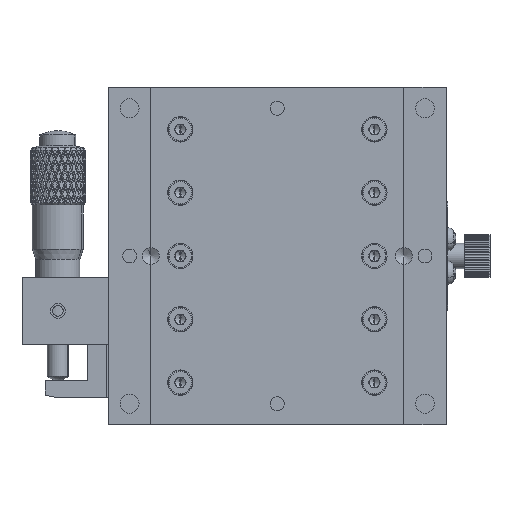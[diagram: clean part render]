
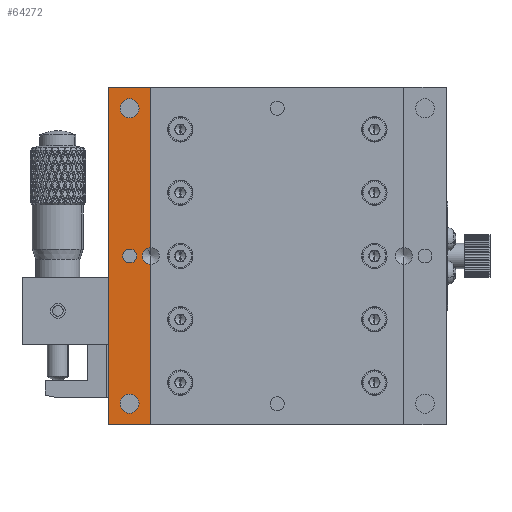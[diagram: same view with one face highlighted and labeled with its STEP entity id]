
A CAD part, front view. The second image highlights one B-rep face of the part: STEP entity #64272.
In plain terms, the highlighted planar face has unit normal (0, -1, 0).
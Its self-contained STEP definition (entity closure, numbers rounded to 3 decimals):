
#957 = EDGE_CURVE ( 'NONE', #43002, #9771, #27841, .T. ) ;
#1872 = VERTEX_POINT ( 'NONE', #61008 ) ;
#2016 = EDGE_CURVE ( 'NONE', #2594, #54217, #45176, .T. ) ;
#2594 = VERTEX_POINT ( 'NONE', #7152 ) ;
#3157 = ORIENTED_EDGE ( 'NONE', *, *, #24356, .F. ) ;
#3160 = AXIS2_PLACEMENT_3D ( 'NONE', #61422, #28050, #67045 ) ;
#3194 = ORIENTED_EDGE ( 'NONE', *, *, #19264, .T. ) ;
#4363 = CARTESIAN_POINT ( 'NONE',  ( -35., 0., 0. ) ) ;
#5461 = DIRECTION ( 'NONE',  ( 0., 0., -1. ) ) ;
#5603 = AXIS2_PLACEMENT_3D ( 'NONE', #72143, #38833, #5461 ) ;
#6060 = CARTESIAN_POINT ( 'NONE',  ( -35., 0., 0. ) ) ;
#6754 = CARTESIAN_POINT ( 'NONE',  ( -40., 0., -40. ) ) ;
#7152 = CARTESIAN_POINT ( 'NONE',  ( -35., 0., -1.65 ) ) ;
#9489 = CARTESIAN_POINT ( 'NONE',  ( -30., 0., 40. ) ) ;
#9545 = CARTESIAN_POINT ( 'NONE',  ( -30., 0., 40. ) ) ;
#9665 = FACE_OUTER_BOUND ( 'NONE', #48557, .T. ) ;
#9771 = VERTEX_POINT ( 'NONE', #30379 ) ;
#9924 = DIRECTION ( 'NONE',  ( 0., 0., 1. ) ) ;
#10125 = LINE ( 'NONE', #9489, #23227 ) ;
#11433 = FACE_BOUND ( 'NONE', #44137, .T. ) ;
#11612 = DIRECTION ( 'NONE',  ( 0., 0., 1. ) ) ;
#11821 = CARTESIAN_POINT ( 'NONE',  ( -35., 0., 32.75 ) ) ;
#12863 = AXIS2_PLACEMENT_3D ( 'NONE', #55271, #72054, #38739 ) ;
#13394 = ORIENTED_EDGE ( 'NONE', *, *, #40059, .F. ) ;
#13973 = EDGE_CURVE ( 'NONE', #15512, #35930, #30794, .T. ) ;
#15512 = VERTEX_POINT ( 'NONE', #16390 ) ;
#16390 = CARTESIAN_POINT ( 'NONE',  ( -40., 0., -40. ) ) ;
#17928 = DIRECTION ( 'NONE',  ( 1., 0., 0. ) ) ;
#17942 = DIRECTION ( 'NONE',  ( 0., 1., 0. ) ) ;
#19264 = EDGE_CURVE ( 'NONE', #9771, #43002, #44212, .T. ) ;
#19435 = VECTOR ( 'NONE', #17928, 1000. ) ;
#19841 = CARTESIAN_POINT ( 'NONE',  ( -40., 0., 40. ) ) ;
#20241 = CARTESIAN_POINT ( 'NONE',  ( -35., 0., 1.65 ) ) ;
#20614 = DIRECTION ( 'NONE',  ( 0., 1., 0. ) ) ;
#21919 = PLANE ( 'NONE',  #12863 ) ;
#22187 = AXIS2_PLACEMENT_3D ( 'NONE', #65734, #32367, #71305 ) ;
#23227 = VECTOR ( 'NONE', #48502, 1000. ) ;
#23790 = ORIENTED_EDGE ( 'NONE', *, *, #2016, .T. ) ;
#24356 = EDGE_CURVE ( 'NONE', #63825, #35930, #45561, .T. ) ;
#24493 = VECTOR ( 'NONE', #25470, 1000. ) ;
#24529 = FACE_BOUND ( 'NONE', #37643, .T. ) ;
#24741 = EDGE_CURVE ( 'NONE', #67820, #58189, #10125, .T. ) ;
#24909 = AXIS2_PLACEMENT_3D ( 'NONE', #53966, #20614, #59589 ) ;
#25160 = CARTESIAN_POINT ( 'NONE',  ( -40., 0., 40. ) ) ;
#25196 = CARTESIAN_POINT ( 'NONE',  ( -30., 0., 40. ) ) ;
#25470 = DIRECTION ( 'NONE',  ( 0., 0., -1. ) ) ;
#26234 = FACE_BOUND ( 'NONE', #40232, .T. ) ;
#27491 = CARTESIAN_POINT ( 'NONE',  ( -35., 0., -37.25 ) ) ;
#27841 = CIRCLE ( 'NONE', #22187, 2.25 ) ;
#28050 = DIRECTION ( 'NONE',  ( 0., 1., 0. ) ) ;
#28434 = CIRCLE ( 'NONE', #43777, 2.25 ) ;
#30379 = CARTESIAN_POINT ( 'NONE',  ( -35., 0., -32.75 ) ) ;
#30794 = LINE ( 'NONE', #6754, #19435 ) ;
#32367 = DIRECTION ( 'NONE',  ( 0., 1., 0. ) ) ;
#35222 = ORIENTED_EDGE ( 'NONE', *, *, #957, .T. ) ;
#35930 = VERTEX_POINT ( 'NONE', #67612 ) ;
#36922 = CIRCLE ( 'NONE', #48596, 1.65 ) ;
#37643 = EDGE_LOOP ( 'NONE', ( #71311, #45032 ) ) ;
#38023 = VECTOR ( 'NONE', #52905, 1000. ) ;
#38739 = DIRECTION ( 'NONE',  ( 0., 0., 1. ) ) ;
#38833 = DIRECTION ( 'NONE',  ( 0., -1., 0. ) ) ;
#39323 = LINE ( 'NONE', #19841, #24493 ) ;
#39380 = ORIENTED_EDGE ( 'NONE', *, *, #13973, .T. ) ;
#40059 = EDGE_CURVE ( 'NONE', #58189, #63825, #54412, .T. ) ;
#40232 = EDGE_LOOP ( 'NONE', ( #50345, #23790 ) ) ;
#40524 = CARTESIAN_POINT ( 'NONE',  ( -30., 0., -2. ) ) ;
#43002 = VERTEX_POINT ( 'NONE', #27491 ) ;
#43311 = DIRECTION ( 'NONE',  ( 0., 1., 0. ) ) ;
#43777 = AXIS2_PLACEMENT_3D ( 'NONE', #51314, #17942, #56927 ) ;
#44137 = EDGE_LOOP ( 'NONE', ( #3194, #35222 ) ) ;
#44212 = CIRCLE ( 'NONE', #24909, 2.25 ) ;
#45005 = DIRECTION ( 'NONE',  ( 0., 1., 0. ) ) ;
#45032 = ORIENTED_EDGE ( 'NONE', *, *, #53219, .T. ) ;
#45176 = CIRCLE ( 'NONE', #51549, 1.65 ) ;
#45305 = CARTESIAN_POINT ( 'NONE',  ( -30., 0., 2. ) ) ;
#45561 = LINE ( 'NONE', #25196, #58606 ) ;
#46340 = CIRCLE ( 'NONE', #3160, 2.25 ) ;
#47826 = DIRECTION ( 'NONE',  ( 0., 0., -1. ) ) ;
#48502 = DIRECTION ( 'NONE',  ( 0., 0., -1. ) ) ;
#48557 = EDGE_LOOP ( 'NONE', ( #3157, #13394, #51646, #69998, #49003, #39380 ) ) ;
#48596 = AXIS2_PLACEMENT_3D ( 'NONE', #6060, #45005, #11612 ) ;
#49003 = ORIENTED_EDGE ( 'NONE', *, *, #71641, .T. ) ;
#49884 = EDGE_CURVE ( 'NONE', #54217, #2594, #36922, .T. ) ;
#50345 = ORIENTED_EDGE ( 'NONE', *, *, #49884, .T. ) ;
#51314 = CARTESIAN_POINT ( 'NONE',  ( -35., 0., 35. ) ) ;
#51549 = AXIS2_PLACEMENT_3D ( 'NONE', #4363, #43311, #9924 ) ;
#51646 = ORIENTED_EDGE ( 'NONE', *, *, #24741, .F. ) ;
#52905 = DIRECTION ( 'NONE',  ( 1., 0., 0. ) ) ;
#53219 = EDGE_CURVE ( 'NONE', #64716, #1872, #46340, .T. ) ;
#53966 = CARTESIAN_POINT ( 'NONE',  ( -35., 0., -35. ) ) ;
#54217 = VERTEX_POINT ( 'NONE', #20241 ) ;
#54412 = CIRCLE ( 'NONE', #5603, 2. ) ;
#54495 = CARTESIAN_POINT ( 'NONE',  ( -40., 0., 40. ) ) ;
#55271 = CARTESIAN_POINT ( 'NONE',  ( -40., 0., 40. ) ) ;
#56320 = LINE ( 'NONE', #25160, #38023 ) ;
#56927 = DIRECTION ( 'NONE',  ( 0., 0., 1. ) ) ;
#58015 = EDGE_CURVE ( 'NONE', #63132, #67820, #56320, .T. ) ;
#58189 = VERTEX_POINT ( 'NONE', #45305 ) ;
#58606 = VECTOR ( 'NONE', #47826, 1000. ) ;
#59589 = DIRECTION ( 'NONE',  ( 0., 0., 1. ) ) ;
#60036 = EDGE_CURVE ( 'NONE', #1872, #64716, #28434, .T. ) ;
#61008 = CARTESIAN_POINT ( 'NONE',  ( -35., 0., 37.25 ) ) ;
#61422 = CARTESIAN_POINT ( 'NONE',  ( -35., 0., 35. ) ) ;
#63132 = VERTEX_POINT ( 'NONE', #54495 ) ;
#63825 = VERTEX_POINT ( 'NONE', #40524 ) ;
#64272 = ADVANCED_FACE ( 'NONE', ( #26234, #11433, #24529, #9665 ), #21919, .F. ) ;
#64716 = VERTEX_POINT ( 'NONE', #11821 ) ;
#65734 = CARTESIAN_POINT ( 'NONE',  ( -35., 0., -35. ) ) ;
#67045 = DIRECTION ( 'NONE',  ( 0., 0., 1. ) ) ;
#67612 = CARTESIAN_POINT ( 'NONE',  ( -30., 0., -40. ) ) ;
#67820 = VERTEX_POINT ( 'NONE', #9545 ) ;
#69998 = ORIENTED_EDGE ( 'NONE', *, *, #58015, .F. ) ;
#71305 = DIRECTION ( 'NONE',  ( 0., 0., 1. ) ) ;
#71311 = ORIENTED_EDGE ( 'NONE', *, *, #60036, .T. ) ;
#71641 = EDGE_CURVE ( 'NONE', #63132, #15512, #39323, .T. ) ;
#72054 = DIRECTION ( 'NONE',  ( 0., 1., 0. ) ) ;
#72143 = CARTESIAN_POINT ( 'NONE',  ( -30., 0., 0. ) ) ;
